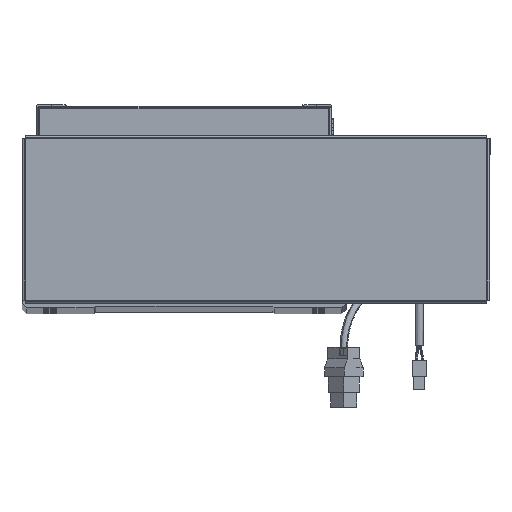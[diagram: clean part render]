
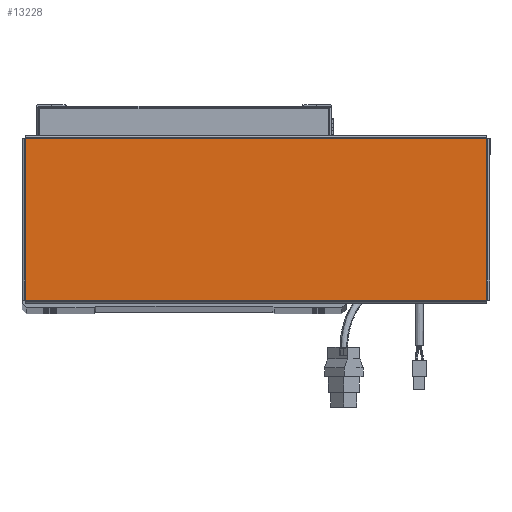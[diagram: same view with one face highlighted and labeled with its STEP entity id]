
A CAD part, top view. The second image highlights one B-rep face of the part: STEP entity #13228.
In plain terms, the highlighted planar face has unit normal (0, 0, 1).
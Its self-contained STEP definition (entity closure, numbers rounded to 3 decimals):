
#397 = ORIENTED_EDGE ( 'NONE', *, *, #13539, .T. ) ;
#1730 = LINE ( 'NONE', #26471, #53684 ) ;
#3773 = DIRECTION ( 'NONE',  ( 1., 0., 0. ) ) ;
#3972 = EDGE_CURVE ( 'NONE', #59455, #48552, #1730, .T. ) ;
#6816 = CARTESIAN_POINT ( 'NONE',  ( -156.513, 54.763, 0. ) ) ;
#6980 = VECTOR ( 'NONE', #40696, 1000. ) ;
#11076 = DIRECTION ( 'NONE',  ( 0., -1., 0. ) ) ;
#13228 = ADVANCED_FACE ( 'NONE', ( #60761 ), #30915, .T. ) ;
#13539 = EDGE_CURVE ( 'NONE', #48552, #31212, #13910, .T. ) ;
#13808 = VERTEX_POINT ( 'NONE', #16746 ) ;
#13910 = LINE ( 'NONE', #56481, #6980 ) ;
#16746 = CARTESIAN_POINT ( 'NONE',  ( -156.513, -54.763, 0. ) ) ;
#16906 = CARTESIAN_POINT ( 'NONE',  ( -156.513, 54.793, 0. ) ) ;
#24958 = CARTESIAN_POINT ( 'NONE',  ( -156.543, -54.763, 0. ) ) ;
#25683 = DIRECTION ( 'NONE',  ( 1., 0., 0. ) ) ;
#26471 = CARTESIAN_POINT ( 'NONE',  ( 156.513, -54.793, 0. ) ) ;
#26966 = DIRECTION ( 'NONE',  ( 0., 1., 0. ) ) ;
#30915 = PLANE ( 'NONE',  #44027 ) ;
#31212 = VERTEX_POINT ( 'NONE', #6816 ) ;
#32266 = VECTOR ( 'NONE', #25683, 1000. ) ;
#33202 = CARTESIAN_POINT ( 'NONE',  ( 156.513, 54.763, 0. ) ) ;
#34153 = VECTOR ( 'NONE', #11076, 1000. ) ;
#36449 = DIRECTION ( 'NONE',  ( 0., 0., 1. ) ) ;
#39158 = LINE ( 'NONE', #24958, #32266 ) ;
#40696 = DIRECTION ( 'NONE',  ( -1., 0., 0. ) ) ;
#42741 = ORIENTED_EDGE ( 'NONE', *, *, #49981, .T. ) ;
#43929 = EDGE_CURVE ( 'NONE', #31212, #13808, #63605, .T. ) ;
#44027 = AXIS2_PLACEMENT_3D ( 'NONE', #65015, #36449, #3773 ) ;
#48552 = VERTEX_POINT ( 'NONE', #33202 ) ;
#49981 = EDGE_CURVE ( 'NONE', #13808, #59455, #39158, .T. ) ;
#53169 = ORIENTED_EDGE ( 'NONE', *, *, #3972, .T. ) ;
#53684 = VECTOR ( 'NONE', #26966, 1000. ) ;
#55584 = CARTESIAN_POINT ( 'NONE',  ( 156.513, -54.763, 0. ) ) ;
#56303 = ORIENTED_EDGE ( 'NONE', *, *, #43929, .T. ) ;
#56481 = CARTESIAN_POINT ( 'NONE',  ( 156.543, 54.763, 0. ) ) ;
#59258 = EDGE_LOOP ( 'NONE', ( #42741, #53169, #397, #56303 ) ) ;
#59455 = VERTEX_POINT ( 'NONE', #55584 ) ;
#60761 = FACE_OUTER_BOUND ( 'NONE', #59258, .T. ) ;
#63605 = LINE ( 'NONE', #16906, #34153 ) ;
#65015 = CARTESIAN_POINT ( 'NONE',  ( 0., 0., 0. ) ) ;
